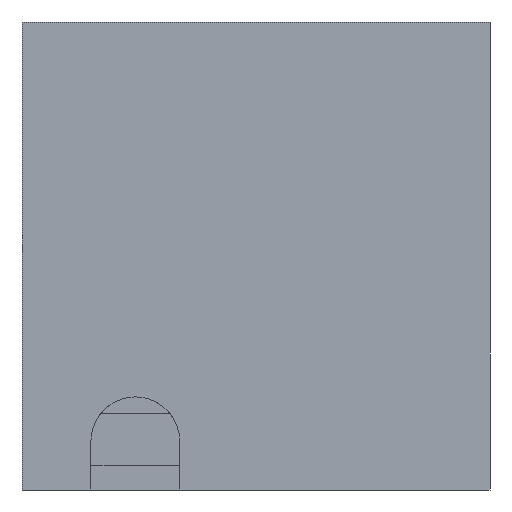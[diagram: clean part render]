
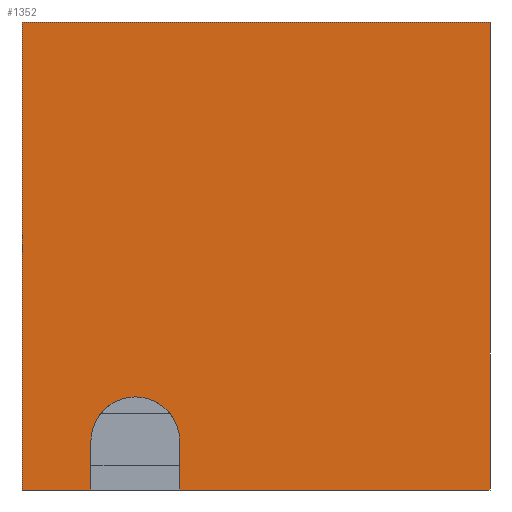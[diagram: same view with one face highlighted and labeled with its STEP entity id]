
A CAD part, left-side view. The second image highlights one B-rep face of the part: STEP entity #1352.
In plain terms, the highlighted planar face has unit normal (-1, 0, 0).
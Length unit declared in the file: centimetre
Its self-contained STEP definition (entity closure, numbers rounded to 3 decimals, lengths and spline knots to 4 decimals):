
#19 = VERTEX_POINT ( 'NONE', #1514 ) ;
#88 = VERTEX_POINT ( 'NONE', #161 ) ;
#94 = EDGE_LOOP ( 'NONE', ( #213, #240, #1097, #1171, #330, #1535, #525, #614, #1028 ) ) ;
#119 = DIRECTION ( 'NONE',  ( 0., 0., 1. ) ) ;
#137 = EDGE_CURVE ( 'NONE', #1672, #208, #816, .T. ) ;
#161 = CARTESIAN_POINT ( 'NONE',  ( 0., 662.9049, 0. ) ) ;
#167 = EDGE_CURVE ( 'NONE', #88, #1734, #1099, .T. ) ;
#196 = AXIS2_PLACEMENT_3D ( 'NONE', #1459, #1718, #119 ) ;
#208 = VERTEX_POINT ( 'NONE', #844 ) ;
#213 = ORIENTED_EDGE ( 'NONE', *, *, #340, .T. ) ;
#219 = VECTOR ( 'NONE', #416, 100. ) ;
#240 = ORIENTED_EDGE ( 'NONE', *, *, #1652, .F. ) ;
#300 = CARTESIAN_POINT ( 'NONE',  ( 0., 852.8248, 0. ) ) ;
#301 = LINE ( 'NONE', #1005, #455 ) ;
#330 = ORIENTED_EDGE ( 'NONE', *, *, #1343, .F. ) ;
#340 = EDGE_CURVE ( 'NONE', #768, #1499, #994, .T. ) ;
#416 = DIRECTION ( 'NONE',  ( 0., -1., 0. ) ) ;
#446 = FACE_OUTER_BOUND ( 'NONE', #94, .T. ) ;
#452 = VECTOR ( 'NONE', #1295, 100. ) ;
#455 = VECTOR ( 'NONE', #1654, 100. ) ;
#470 = CARTESIAN_POINT ( 'NONE',  ( 0., 757.8648, 104.0233 ) ) ;
#525 = ORIENTED_EDGE ( 'NONE', *, *, #1578, .F. ) ;
#535 = CARTESIAN_POINT ( 'NONE',  ( 0., 1000., 0. ) ) ;
#541 = CARTESIAN_POINT ( 'NONE',  ( 0., 1000., 1000. ) ) ;
#547 = DIRECTION ( 'NONE',  ( 0., -1., 0. ) ) ;
#550 = DIRECTION ( 'NONE',  ( 0., 0., -1. ) ) ;
#552 = DIRECTION ( 'NONE',  ( 0., -1., 0. ) ) ;
#564 = CARTESIAN_POINT ( 'NONE',  ( 0., 1000., 0. ) ) ;
#567 = AXIS2_PLACEMENT_3D ( 'NONE', #603, #1532, #1539 ) ;
#603 = CARTESIAN_POINT ( 'NONE',  ( 0., 1000., 1000. ) ) ;
#611 = DIRECTION ( 'NONE',  ( 0., 0., 1. ) ) ;
#614 = ORIENTED_EDGE ( 'NONE', *, *, #137, .F. ) ;
#673 = VERTEX_POINT ( 'NONE', #1716 ) ;
#698 = LINE ( 'NONE', #1487, #1208 ) ;
#716 = PLANE ( 'NONE',  #567 ) ;
#725 = EDGE_CURVE ( 'NONE', #1672, #768, #1014, .T. ) ;
#768 = VERTEX_POINT ( 'NONE', #1536 ) ;
#781 = VECTOR ( 'NONE', #547, 100. ) ;
#796 = EDGE_CURVE ( 'NONE', #826, #19, #965, .T. ) ;
#816 = LINE ( 'NONE', #541, #781 ) ;
#826 = VERTEX_POINT ( 'NONE', #1335 ) ;
#844 = CARTESIAN_POINT ( 'NONE',  ( 0., 0., 1000. ) ) ;
#890 = CARTESIAN_POINT ( 'NONE',  ( 0., 0., 0. ) ) ;
#965 = CIRCLE ( 'NONE', #196, 94.96 ) ;
#994 = LINE ( 'NONE', #564, #219 ) ;
#1005 = CARTESIAN_POINT ( 'NONE',  ( 0., 662.9049, 0. ) ) ;
#1014 = LINE ( 'NONE', #1143, #1727 ) ;
#1028 = ORIENTED_EDGE ( 'NONE', *, *, #725, .T. ) ;
#1097 = ORIENTED_EDGE ( 'NONE', *, *, #1736, .F. ) ;
#1099 = LINE ( 'NONE', #535, #1491 ) ;
#1138 = CARTESIAN_POINT ( 'NONE',  ( 0., 852.8248, 104.0233 ) ) ;
#1143 = CARTESIAN_POINT ( 'NONE',  ( 0., 1000., 1000. ) ) ;
#1171 = ORIENTED_EDGE ( 'NONE', *, *, #796, .F. ) ;
#1180 = CIRCLE ( 'NONE', #1559, 94.96 ) ;
#1208 = VECTOR ( 'NONE', #550, 100. ) ;
#1276 = DIRECTION ( 'NONE',  ( -1., 0., 0. ) ) ;
#1282 = DIRECTION ( 'NONE',  ( 0., 0., -1. ) ) ;
#1295 = DIRECTION ( 'NONE',  ( 0., 0., -1. ) ) ;
#1335 = CARTESIAN_POINT ( 'NONE',  ( 0., 662.9049, 104.0233 ) ) ;
#1343 = EDGE_CURVE ( 'NONE', #88, #826, #301, .T. ) ;
#1352 = ADVANCED_FACE ( 'NONE', ( #446 ), #716, .F. ) ;
#1423 = CARTESIAN_POINT ( 'NONE',  ( 0., 1000., 1000. ) ) ;
#1459 = CARTESIAN_POINT ( 'NONE',  ( 0., 757.8648, 104.0233 ) ) ;
#1487 = CARTESIAN_POINT ( 'NONE',  ( 0., 0., 1000. ) ) ;
#1491 = VECTOR ( 'NONE', #552, 100. ) ;
#1499 = VERTEX_POINT ( 'NONE', #300 ) ;
#1514 = CARTESIAN_POINT ( 'NONE',  ( 0., 757.8648, 198.9832 ) ) ;
#1532 = DIRECTION ( 'NONE',  ( 1., 0., 0. ) ) ;
#1535 = ORIENTED_EDGE ( 'NONE', *, *, #167, .T. ) ;
#1536 = CARTESIAN_POINT ( 'NONE',  ( 0., 1000., 0. ) ) ;
#1539 = DIRECTION ( 'NONE',  ( 0., 0., -1. ) ) ;
#1559 = AXIS2_PLACEMENT_3D ( 'NONE', #470, #1276, #611 ) ;
#1576 = LINE ( 'NONE', #1138, #452 ) ;
#1578 = EDGE_CURVE ( 'NONE', #208, #1734, #698, .T. ) ;
#1652 = EDGE_CURVE ( 'NONE', #673, #1499, #1576, .T. ) ;
#1654 = DIRECTION ( 'NONE',  ( 0., 0., 1. ) ) ;
#1672 = VERTEX_POINT ( 'NONE', #1423 ) ;
#1716 = CARTESIAN_POINT ( 'NONE',  ( 0., 852.8248, 104.0233 ) ) ;
#1718 = DIRECTION ( 'NONE',  ( -1., 0., 0. ) ) ;
#1727 = VECTOR ( 'NONE', #1282, 100. ) ;
#1734 = VERTEX_POINT ( 'NONE', #890 ) ;
#1736 = EDGE_CURVE ( 'NONE', #19, #673, #1180, .T. ) ;
